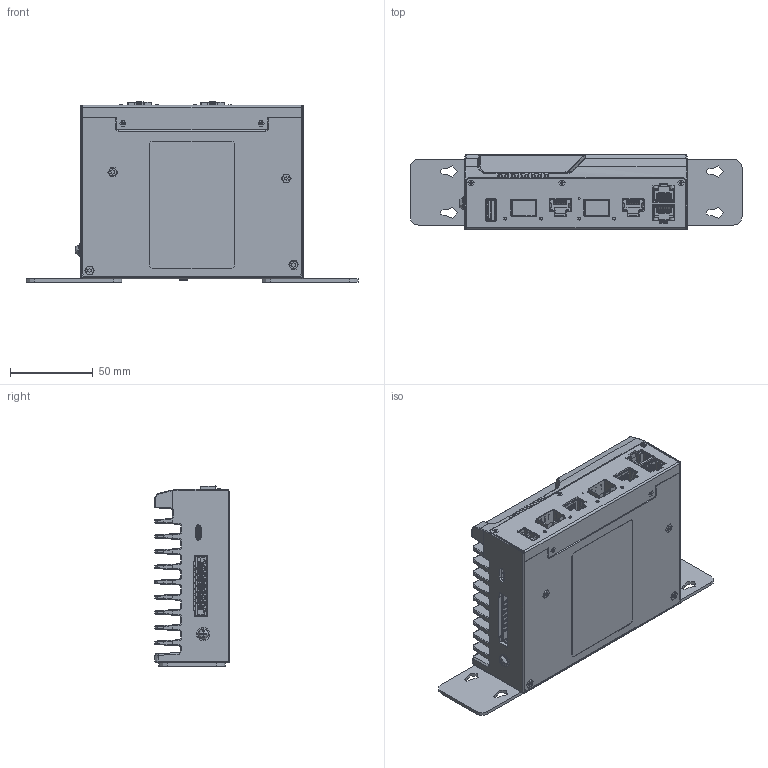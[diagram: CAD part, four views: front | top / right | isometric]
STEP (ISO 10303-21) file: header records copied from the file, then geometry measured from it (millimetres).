
FILE_DESCRIPTION((''),'2;1');
FILE_NAME('00_EDR_G9004_WALLMOUNT','2024-04-29T11:09:29',('Kelvin_Huang'),('PTC'),'CREO PARAMETRIC BY PTC INC, 2023072','CREO PARAMETRIC BY PTC INC, 2023072','');
FILE_SCHEMA(('AUTOMOTIVE_DESIGN { 1 0 10303 214 1 1 1 1 }'));
Products named in the file (1): 00_EDR_G9004_WALLMOUNT
Bounding box: 201 x 45 x 109.1 mm (x, y, z)
Topology: 85 solids, 185 shells, 12536 faces, 34383 edges, 22146 vertices
Faces by surface type: plane 7824, cylinder 3278, bspline 546, torus 435, cone 331, sphere 100, extrusion 18, revolution 4
Full cylindrical faces by diameter (mm): 1.3 x4
Entity records: 483866 total; most frequent: CARTESIAN_POINT 122388, ORIENTED_EDGE 67240, DIRECTION 60933, EDGE_CURVE 34371, VECTOR 24480, LINE 24462, VERTEX_POINT 22152, AXIS2_PLACEMENT_3D 18223
